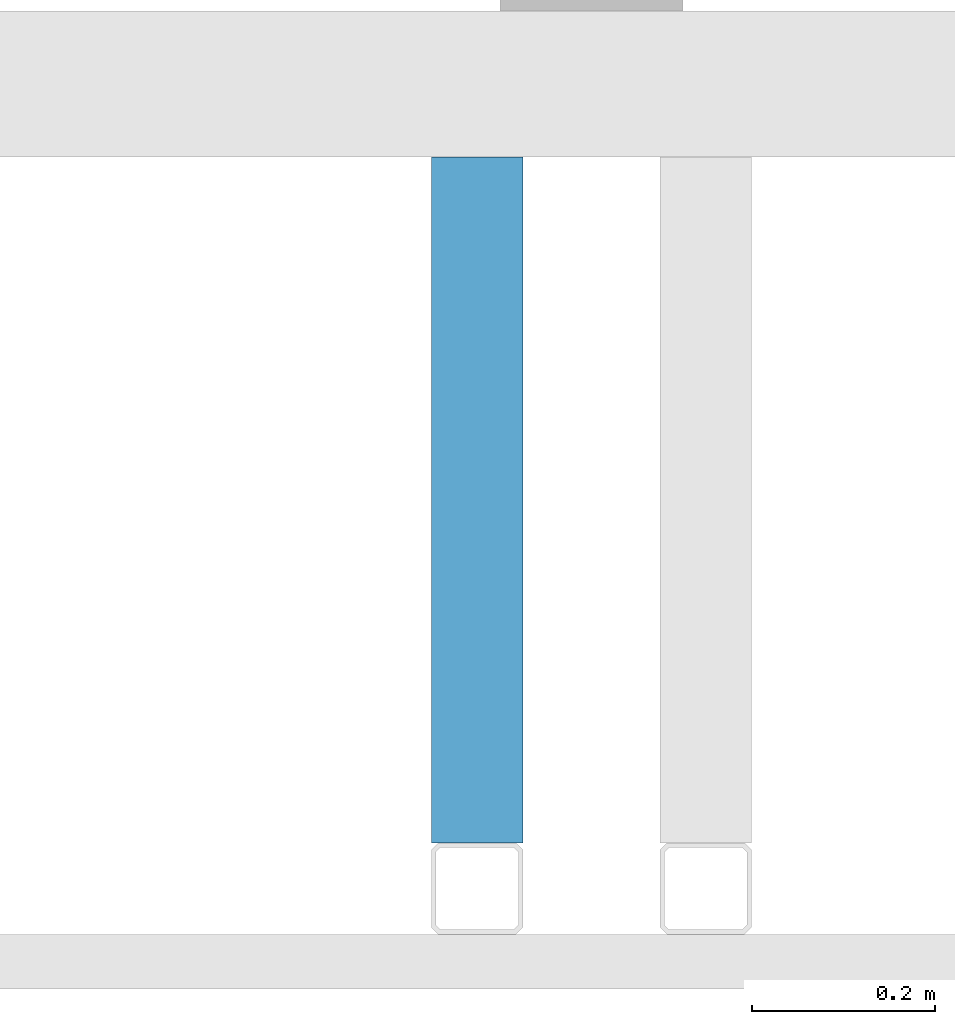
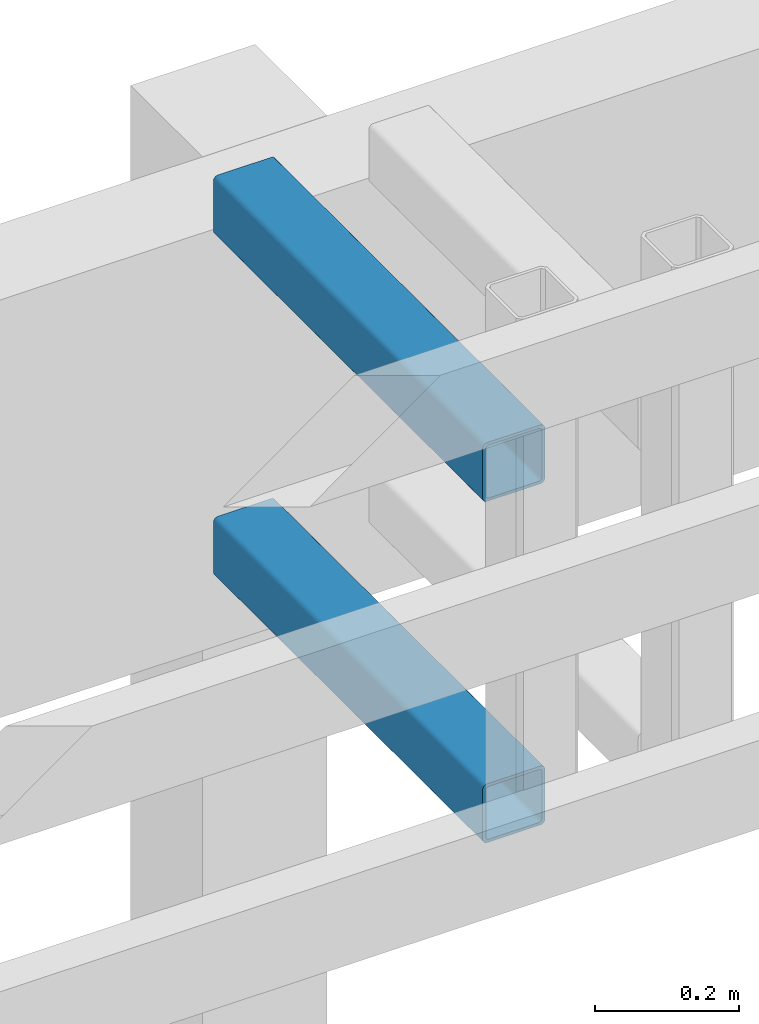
# One storey, part 26 of 42: 2 members.
"""IFC4 building model written with IfcOpenShell, lengths in metres."""

from ifc_helpers import new_model, entity, si_unit, converted_unit, derived_unit, frame, origin, place, context, subcontext, project, spatial, faceted_brep, material, element, save


model = new_model("IFC4")

# Units and contexts
model_context = context("Model", 3, precision=1e-05, world=origin())
plan_context = context("Plan", 2, precision=1e-05, world=origin())
body_context = subcontext(model_context, "Body", "Model", "MODEL_VIEW")
ifc_project = project(units=[si_unit("LENGTHUNIT", "METRE"), si_unit("AREAUNIT", "SQUARE_METRE"), si_unit("VOLUMEUNIT", "CUBIC_METRE"), si_unit("MASSUNIT", "GRAM", prefix="KILO"), converted_unit("PLANEANGLEUNIT", "DEGREE", entity("IfcPlaneAngleMeasure", 0.0174532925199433), si_unit("PLANEANGLEUNIT", "RADIAN"), dimensions=[0, 0, 0, 0, 0, 0, 0]), derived_unit("THERMALTRANSMITTANCEUNIT", [(si_unit("POWERUNIT", "WATT"), 1), (si_unit("THERMODYNAMICTEMPERATUREUNIT", "KELVIN"), -1), (si_unit("LENGTHUNIT", "METRE"), -2)]), derived_unit("VOLUMETRICFLOWRATEUNIT", [(si_unit("LENGTHUNIT", "METRE"), 3), (converted_unit("TIMEUNIT", "hour", entity("IfcTimeMeasure", 3600.0), si_unit("TIMEUNIT", "SECOND"), dimensions=[0, 0, 1, 0, 0, 0, 0]), -1), (si_unit("LENGTHUNIT", "METRE"), -1)])], contexts=[model_context, plan_context])

# Site, building, storey
site_placement = place(None, origin())
site = spatial("IfcSite", under=ifc_project, at=site_placement, Name="Site", CompositionType="ELEMENT")
building_placement = place(site_placement, origin())
building = spatial("IfcBuilding", under=site, at=building_placement, Name="Admin", CompositionType="ELEMENT")
storey_placement = place(building_placement, frame((0.0, 0.0, 6.61)))
storey = spatial("IfcBuildingStorey", under=building, at=storey_placement, Name="02-Etage2", CompositionType="ELEMENT", Elevation=6.61)

# Members
ifc_material_1 = material(Name="S235")
member_1_placement = place(storey_placement, frame((52.3748010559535, 11.1194493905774, 2.28)))
element("IfcMember", 1, at=member_1_placement, inside=storey, material=ifc_material_1, Name="Bandeau R+2", context=body_context, shape_type="Brep", body=[
    faceted_brep([(0.0950000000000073, 0.0, 0.09), (0.0950000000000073, 0.0, 0.01), (0.0950000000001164, 0.749999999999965, 0.01), (0.0950000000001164, 0.749999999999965, 0.09), (0.0949240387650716, 0.0, 0.0908682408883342), (0.0949240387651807, 0.749999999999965, 0.0908682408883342), (0.0946984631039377, 0.0, 0.0917101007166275), (0.0946984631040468, 0.749999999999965, 0.0917101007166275), (0.0943301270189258, 0.0, 0.0925), (0.094330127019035, 0.749999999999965, 0.0925), (0.0938302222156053, 0.0, 0.0932139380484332), (0.0938302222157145, 0.749999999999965, 0.0932139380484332), (0.0932139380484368, 1.81898940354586e-15, 0.0938302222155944), (0.093213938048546, 0.749999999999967, 0.0938302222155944), (0.0925000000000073, 1.81898940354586e-15, 0.0943301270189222), (0.0925000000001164, 0.749999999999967, 0.0943301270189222), (0.0917101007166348, 1.81898940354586e-15, 0.0946984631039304), (0.0917101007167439, 0.749999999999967, 0.0946984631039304), (0.0908682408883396, 1.81898940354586e-15, 0.0949240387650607), (0.0908682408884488, 0.749999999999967, 0.0949240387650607), (0.0900000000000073, 1.81898940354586e-15, 0.095), (0.0900000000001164, 0.749999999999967, 0.095), (0.0100000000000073, 1.2732925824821e-14, 0.095), (0.0100000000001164, 0.749999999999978, 0.095), (0.00913175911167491, 1.2732925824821e-14, 0.0949240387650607), (0.00913175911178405, 0.749999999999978, 0.0949240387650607), (0.00828989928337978, 1.2732925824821e-14, 0.0946984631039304), (0.00828989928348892, 0.749999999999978, 0.0946984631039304), (0.00750000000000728, 1.2732925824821e-14, 0.0943301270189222), (0.00750000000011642, 0.749999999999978, 0.0943301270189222), (0.00678606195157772, 1.2732925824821e-14, 0.0938302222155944), (0.00678606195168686, 0.749999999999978, 0.0938302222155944), (0.00616977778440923, 1.45519152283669e-14, 0.0932139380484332), (0.00616977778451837, 0.74999999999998, 0.0932139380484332), (0.0056698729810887, 1.45519152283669e-14, 0.0925), (0.00566987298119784, 0.74999999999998, 0.0925), (0.00530153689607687, 1.45519152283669e-14, 0.0917101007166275), (0.00530153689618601, 0.74999999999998, 0.0917101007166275), (0.00507596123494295, 1.45519152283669e-14, 0.0908682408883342), (0.00507596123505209, 0.74999999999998, 0.0908682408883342), (0.00500000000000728, 1.45519152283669e-14, 0.09), (0.00500000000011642, 0.74999999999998, 0.09), (0.00500000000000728, 1.45519152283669e-14, 0.01), (0.00500000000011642, 0.74999999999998, 0.01), (0.00507596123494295, 1.45519152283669e-14, 0.00913175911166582), (0.00507596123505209, 0.74999999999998, 0.00913175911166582), (0.00530153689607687, 1.45519152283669e-14, 0.00828989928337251), (0.00530153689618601, 0.74999999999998, 0.00828989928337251), (0.0056698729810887, 1.45519152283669e-14, 0.0075), (0.00566987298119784, 0.74999999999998, 0.0075), (0.00616977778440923, 1.45519152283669e-14, 0.00678606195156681), (0.00616977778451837, 0.74999999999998, 0.00678606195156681), (0.00678606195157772, 1.2732925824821e-14, 0.0061697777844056), (0.00678606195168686, 0.749999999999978, 0.0061697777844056), (0.00750000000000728, 1.2732925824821e-14, 0.00566987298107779), (0.00750000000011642, 0.749999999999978, 0.00566987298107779), (0.00828989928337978, 1.2732925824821e-14, 0.00530153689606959), (0.00828989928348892, 0.749999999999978, 0.00530153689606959), (0.00913175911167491, 1.2732925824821e-14, 0.00507596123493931), (0.00913175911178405, 0.749999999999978, 0.00507596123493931), (0.0100000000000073, 1.2732925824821e-14, 0.005), (0.0100000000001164, 0.749999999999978, 0.005), (0.0900000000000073, 1.81898940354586e-15, 0.005), (0.0900000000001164, 0.749999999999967, 0.005), (0.0908682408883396, 1.81898940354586e-15, 0.00507596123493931), (0.0908682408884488, 0.749999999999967, 0.00507596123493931), (0.0917101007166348, 1.81898940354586e-15, 0.00530153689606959), (0.0917101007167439, 0.749999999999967, 0.00530153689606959), (0.0925000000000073, 1.81898940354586e-15, 0.00566987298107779), (0.0925000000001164, 0.749999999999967, 0.00566987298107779), (0.0932139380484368, 1.81898940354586e-15, 0.0061697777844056), (0.093213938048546, 0.749999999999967, 0.0061697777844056), (0.0938302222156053, 0.0, 0.00678606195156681), (0.0938302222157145, 0.749999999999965, 0.00678606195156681), (0.0943301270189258, 0.0, 0.0075), (0.094330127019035, 0.749999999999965, 0.0075), (0.0946984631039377, 0.0, 0.00828989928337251), (0.0946984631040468, 0.749999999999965, 0.00828989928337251), (0.0949240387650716, 0.0, 0.00913175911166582), (0.0949240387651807, 0.749999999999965, 0.00913175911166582), (0.00750000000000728, 1.2732925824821e-14, 0.1), (0.00619763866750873, 1.45519152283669e-14, 0.099886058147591), (0.00619763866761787, 0.74999999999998, 0.099886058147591), (0.00750000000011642, 0.749999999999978, 0.1), (0.0925000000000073, 1.81898940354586e-15, 0.1), (0.0925000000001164, 0.749999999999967, 0.1), (0.0938023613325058, 0.0, 0.099886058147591), (0.093802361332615, 0.749999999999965, 0.099886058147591), (0.0950651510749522, 0.0, 0.0995476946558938), (0.0950651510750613, 0.749999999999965, 0.0995476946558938), (0.0962500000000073, 0.0, 0.0989951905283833), (0.0962500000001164, 0.749999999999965, 0.0989951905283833), (0.0973209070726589, 0.0, 0.0982453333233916), (0.097320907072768, 0.749999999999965, 0.0982453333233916), (0.0982453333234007, 0.0, 0.0973209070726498), (0.0982453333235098, 0.749999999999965, 0.0973209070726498), (0.0989951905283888, 0.0, 0.09625), (0.0989951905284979, 0.749999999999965, 0.09625), (0.0995476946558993, 0.0, 0.0950651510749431), (0.0995476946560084, 0.749999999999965, 0.0950651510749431), (0.0998860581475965, 0.0, 0.0938023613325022), (0.0998860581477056, 0.749999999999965, 0.0938023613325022), (0.100000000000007, 0.0, 0.0925), (0.100000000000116, 0.749999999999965, 0.0925), (0.0998860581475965, 0.0, 0.00619763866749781), (0.100000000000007, 0.0, 0.0075), (0.100000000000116, 0.749999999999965, 0.0075), (0.0998860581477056, 0.749999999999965, 0.00619763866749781), (0.0995476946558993, 0.0, 0.00493484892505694), (0.0995476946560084, 0.749999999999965, 0.00493484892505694), (0.0989951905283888, 0.0, 0.00375), (0.0989951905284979, 0.749999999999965, 0.00375), (0.0982453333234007, 0.0, 0.00267909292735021), (0.0982453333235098, 0.749999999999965, 0.00267909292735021), (0.0973209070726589, 0.0, 0.00175466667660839), (0.097320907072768, 0.749999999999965, 0.00175466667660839), (0.0962500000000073, 0.0, 0.00100480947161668), (0.0962500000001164, 0.749999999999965, 0.00100480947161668), (0.0950651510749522, 0.0, 0.000452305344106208), (0.0950651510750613, 0.749999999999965, 0.000452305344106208), (0.0938023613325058, 0.0, 0.000113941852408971), (0.093802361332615, 0.749999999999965, 0.000113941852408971), (0.0925000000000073, 1.81898940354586e-15, 0.0), (0.0925000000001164, 0.749999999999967, 0.0), (0.00750000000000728, 1.2732925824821e-14, 0.0), (0.00750000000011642, 0.749999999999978, 0.0), (0.00619763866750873, 1.45519152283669e-14, 0.000113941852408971), (0.00619763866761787, 0.74999999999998, 0.000113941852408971), (0.0049348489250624, 1.45519152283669e-14, 0.000452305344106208), (0.00493484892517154, 0.74999999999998, 0.000452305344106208), (0.00375000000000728, 1.45519152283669e-14, 0.00100480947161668), (0.00375000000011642, 0.74999999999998, 0.00100480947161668), (0.00267909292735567, 1.45519152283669e-14, 0.00175466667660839), (0.00267909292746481, 0.74999999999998, 0.00175466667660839), (0.00175466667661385, 1.45519152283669e-14, 0.00267909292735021), (0.00175466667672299, 0.74999999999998, 0.00267909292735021), (0.00100480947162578, 1.45519152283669e-14, 0.00375), (0.00100480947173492, 0.74999999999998, 0.00375), (0.000452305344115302, 1.45519152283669e-14, 0.00493484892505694), (0.000452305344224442, 0.74999999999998, 0.00493484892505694), (0.000113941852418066, 1.45519152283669e-14, 0.00619763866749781), (0.000113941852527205, 0.74999999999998, 0.00619763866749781), (7.27595761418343e-15, 0.0, 0.0075), (1.16415321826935e-13, 0.74999999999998, 0.0075), (0.000113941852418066, 1.45519152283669e-14, 0.0938023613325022), (0.0, 0.0, 0.0925), (1.16415321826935e-13, 0.74999999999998, 0.0925), (0.000113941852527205, 0.74999999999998, 0.0938023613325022), (0.000452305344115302, 1.45519152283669e-14, 0.0950651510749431), (0.000452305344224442, 0.74999999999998, 0.0950651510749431), (0.00100480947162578, 1.45519152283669e-14, 0.09625), (0.00100480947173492, 0.74999999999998, 0.09625), (0.00175466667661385, 1.45519152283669e-14, 0.0973209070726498), (0.00175466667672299, 0.74999999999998, 0.0973209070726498), (0.00267909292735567, 1.45519152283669e-14, 0.0982453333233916), (0.00267909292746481, 0.74999999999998, 0.0982453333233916), (0.00375000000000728, 1.45519152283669e-14, 0.0989951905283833), (0.00375000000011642, 0.74999999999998, 0.0989951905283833), (0.0049348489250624, 1.45519152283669e-14, 0.0995476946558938), (0.00493484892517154, 0.74999999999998, 0.0995476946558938)], [[[0, 1, 2, 3]], [[4, 0, 3, 5]], [[6, 4, 5, 7]], [[8, 6, 7, 9]], [[10, 8, 9, 11]], [[12, 10, 11, 13]], [[14, 12, 13, 15]], [[16, 14, 15, 17]], [[18, 16, 17, 19]], [[20, 18, 19, 21]], [[22, 20, 21, 23]], [[24, 22, 23, 25]], [[26, 24, 25, 27]], [[28, 26, 27, 29]], [[30, 28, 29, 31]], [[32, 30, 31, 33]], [[34, 32, 33, 35]], [[36, 34, 35, 37]], [[38, 36, 37, 39]], [[40, 38, 39, 41]], [[42, 40, 41, 43]], [[44, 42, 43, 45]], [[46, 44, 45, 47]], [[48, 46, 47, 49]], [[50, 48, 49, 51]], [[52, 50, 51, 53]], [[54, 52, 53, 55]], [[56, 54, 55, 57]], [[58, 56, 57, 59]], [[60, 58, 59, 61]], [[62, 60, 61, 63]], [[64, 62, 63, 65]], [[66, 64, 65, 67]], [[68, 66, 67, 69]], [[70, 68, 69, 71]], [[72, 70, 71, 73]], [[74, 72, 73, 75]], [[76, 74, 75, 77]], [[78, 76, 77, 79]], [[1, 78, 79, 2]], [[80, 81, 82, 83]], [[84, 80, 83, 85]], [[86, 84, 85, 87]], [[88, 86, 87, 89]], [[90, 88, 89, 91]], [[92, 90, 91, 93]], [[94, 92, 93, 95]], [[96, 94, 95, 97]], [[98, 96, 97, 99]], [[100, 98, 99, 101]], [[102, 100, 101, 103]], [[104, 105, 106, 107]], [[108, 104, 107, 109]], [[110, 108, 109, 111]], [[112, 110, 111, 113]], [[114, 112, 113, 115]], [[116, 114, 115, 117]], [[118, 116, 117, 119]], [[120, 118, 119, 121]], [[122, 120, 121, 123]], [[124, 122, 123, 125]], [[126, 124, 125, 127]], [[128, 126, 127, 129]], [[130, 128, 129, 131]], [[132, 130, 131, 133]], [[134, 132, 133, 135]], [[136, 134, 135, 137]], [[138, 136, 137, 139]], [[140, 138, 139, 141]], [[142, 140, 141, 143]], [[144, 145, 146, 147]], [[148, 144, 147, 149]], [[150, 148, 149, 151]], [[152, 150, 151, 153]], [[154, 152, 153, 155]], [[156, 154, 155, 157]], [[158, 156, 157, 159]], [[81, 158, 159, 82]], [[146, 143, 141, 139, 137, 135, 133, 131, 129, 127, 125, 123, 121, 119, 117, 115, 113, 111, 109, 107, 106, 103, 101, 99, 97, 95, 93, 91, 89, 87, 85, 83, 82, 159, 157, 155, 153, 151, 149, 147], [2, 79, 77, 75, 73, 71, 69, 67, 65, 63, 61, 59, 57, 55, 53, 51, 49, 47, 45, 43, 41, 39, 37, 35, 33, 31, 29, 27, 25, 23, 21, 19, 17, 15, 13, 11, 9, 7, 5, 3]], [[103, 106, 105, 102]], [[102, 105, 104, 108, 110, 112, 114, 116, 118, 120, 122, 124, 126, 128, 130, 132, 134, 136, 138, 140, 142, 145, 144, 148, 150, 152, 154, 156, 158, 81, 80, 84, 86, 88, 90, 92, 94, 96, 98, 100], [1, 0, 4, 6, 8, 10, 12, 14, 16, 18, 20, 22, 24, 26, 28, 30, 32, 34, 36, 38, 40, 42, 44, 46, 48, 50, 52, 54, 56, 58, 60, 62, 64, 66, 68, 70, 72, 74, 76, 78]], [[145, 142, 143, 146]]], orient=[[False], [False], [False], [False], [False], [False], [False], [False], [False], [False], [False], [False], [False], [False], [False], [False], [False], [False], [False], [False], [False], [False], [False], [False], [False], [False], [False], [False], [False], [False], [False], [False], [False], [False], [False], [False], [False], [False], [False], [False], [False], [False], [False], [False], [False], [False], [False], [False], [False], [False], [False], [False], [False], [False], [False], [False], [False], [False], [False], [False], [False], [False], [False], [False], [False], [False], [False], [False], [False], [False], [False], [False], [False], [False], [False], [False], [False], [False], [False, False], [False], [False, False], [False]]),
])
ifc_material_2 = material(Name="S235")
member_2_placement = place(storey_placement, frame((52.3748010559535, 11.1194493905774, 2.86)))
element("IfcMember", 2, at=member_2_placement, inside=storey, material=ifc_material_2, Name="Bandeau R+2", context=body_context, shape_type="Brep", body=[
    faceted_brep([(0.0950000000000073, 0.0, 0.09), (0.0950000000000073, 0.0, 0.01), (0.0950000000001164, 0.74999999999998, 0.01), (0.0950000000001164, 0.74999999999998, 0.09), (0.0949240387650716, 0.0, 0.0908682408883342), (0.0949240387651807, 0.74999999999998, 0.0908682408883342), (0.0946984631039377, 0.0, 0.0917101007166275), (0.0946984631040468, 0.74999999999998, 0.0917101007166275), (0.0943301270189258, 0.0, 0.0925), (0.094330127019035, 0.74999999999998, 0.0925), (0.0938302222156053, 0.0, 0.0932139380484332), (0.0938302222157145, 0.74999999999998, 0.0932139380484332), (0.0932139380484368, 1.81898940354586e-15, 0.0938302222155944), (0.093213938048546, 0.749999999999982, 0.0938302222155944), (0.0925000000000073, 1.81898940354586e-15, 0.0943301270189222), (0.0925000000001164, 0.749999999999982, 0.0943301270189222), (0.0917101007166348, 1.81898940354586e-15, 0.0946984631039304), (0.0917101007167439, 0.749999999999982, 0.0946984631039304), (0.0908682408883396, 1.81898940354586e-15, 0.0949240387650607), (0.0908682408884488, 0.749999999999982, 0.0949240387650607), (0.0900000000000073, 1.81898940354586e-15, 0.095), (0.0900000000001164, 0.749999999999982, 0.095), (0.0100000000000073, 1.2732925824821e-14, 0.095), (0.0100000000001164, 0.749999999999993, 0.095), (0.00913175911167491, 1.2732925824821e-14, 0.0949240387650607), (0.00913175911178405, 0.749999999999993, 0.0949240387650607), (0.00828989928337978, 1.2732925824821e-14, 0.0946984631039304), (0.00828989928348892, 0.749999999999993, 0.0946984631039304), (0.00750000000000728, 1.2732925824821e-14, 0.0943301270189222), (0.00750000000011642, 0.749999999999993, 0.0943301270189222), (0.00678606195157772, 1.2732925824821e-14, 0.0938302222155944), (0.00678606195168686, 0.749999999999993, 0.0938302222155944), (0.00616977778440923, 1.45519152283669e-14, 0.0932139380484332), (0.00616977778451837, 0.749999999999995, 0.0932139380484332), (0.0056698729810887, 1.45519152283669e-14, 0.0925), (0.00566987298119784, 0.749999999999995, 0.0925), (0.00530153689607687, 1.45519152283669e-14, 0.0917101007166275), (0.00530153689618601, 0.749999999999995, 0.0917101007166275), (0.00507596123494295, 1.45519152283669e-14, 0.0908682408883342), (0.00507596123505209, 0.749999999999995, 0.0908682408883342), (0.00500000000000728, 1.45519152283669e-14, 0.09), (0.00500000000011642, 0.749999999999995, 0.09), (0.00500000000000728, 1.45519152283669e-14, 0.01), (0.00500000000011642, 0.749999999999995, 0.01), (0.00507596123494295, 1.45519152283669e-14, 0.00913175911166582), (0.00507596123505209, 0.749999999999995, 0.00913175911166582), (0.00530153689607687, 1.45519152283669e-14, 0.00828989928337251), (0.00530153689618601, 0.749999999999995, 0.00828989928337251), (0.0056698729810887, 1.45519152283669e-14, 0.0075), (0.00566987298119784, 0.749999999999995, 0.0075), (0.00616977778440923, 1.45519152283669e-14, 0.00678606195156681), (0.00616977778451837, 0.749999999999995, 0.00678606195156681), (0.00678606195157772, 1.2732925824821e-14, 0.0061697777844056), (0.00678606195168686, 0.749999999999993, 0.0061697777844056), (0.00750000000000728, 1.2732925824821e-14, 0.00566987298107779), (0.00750000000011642, 0.749999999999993, 0.00566987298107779), (0.00828989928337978, 1.2732925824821e-14, 0.00530153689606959), (0.00828989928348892, 0.749999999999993, 0.00530153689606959), (0.00913175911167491, 1.2732925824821e-14, 0.00507596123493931), (0.00913175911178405, 0.749999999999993, 0.00507596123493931), (0.0100000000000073, 1.2732925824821e-14, 0.005), (0.0100000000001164, 0.749999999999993, 0.005), (0.0900000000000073, 1.81898940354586e-15, 0.005), (0.0900000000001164, 0.749999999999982, 0.005), (0.0908682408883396, 1.81898940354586e-15, 0.00507596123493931), (0.0908682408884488, 0.749999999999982, 0.00507596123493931), (0.0917101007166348, 1.81898940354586e-15, 0.00530153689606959), (0.0917101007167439, 0.749999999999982, 0.00530153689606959), (0.0925000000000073, 1.81898940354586e-15, 0.00566987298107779), (0.0925000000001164, 0.749999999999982, 0.00566987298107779), (0.0932139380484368, 1.81898940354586e-15, 0.0061697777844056), (0.093213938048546, 0.749999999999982, 0.0061697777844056), (0.0938302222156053, 0.0, 0.00678606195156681), (0.0938302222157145, 0.74999999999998, 0.00678606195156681), (0.0943301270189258, 0.0, 0.0075), (0.094330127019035, 0.74999999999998, 0.0075), (0.0946984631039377, 0.0, 0.00828989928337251), (0.0946984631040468, 0.74999999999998, 0.00828989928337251), (0.0949240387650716, 0.0, 0.00913175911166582), (0.0949240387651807, 0.74999999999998, 0.00913175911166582), (0.00750000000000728, 1.2732925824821e-14, 0.1), (0.00619763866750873, 1.45519152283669e-14, 0.099886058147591), (0.00619763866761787, 0.749999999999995, 0.099886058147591), (0.00750000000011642, 0.749999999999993, 0.1), (0.0925000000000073, 1.81898940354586e-15, 0.1), (0.0925000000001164, 0.749999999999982, 0.1), (0.0938023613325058, 0.0, 0.099886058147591), (0.093802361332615, 0.74999999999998, 0.099886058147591), (0.0950651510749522, 0.0, 0.0995476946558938), (0.0950651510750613, 0.74999999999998, 0.0995476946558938), (0.0962500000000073, 0.0, 0.0989951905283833), (0.0962500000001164, 0.74999999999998, 0.0989951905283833), (0.0973209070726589, 0.0, 0.0982453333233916), (0.097320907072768, 0.74999999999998, 0.0982453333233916), (0.0982453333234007, 0.0, 0.0973209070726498), (0.0982453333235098, 0.74999999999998, 0.0973209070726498), (0.0989951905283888, 0.0, 0.09625), (0.0989951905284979, 0.74999999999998, 0.09625), (0.0995476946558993, 0.0, 0.0950651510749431), (0.0995476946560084, 0.74999999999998, 0.0950651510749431), (0.0998860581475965, 0.0, 0.0938023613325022), (0.0998860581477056, 0.74999999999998, 0.0938023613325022), (0.100000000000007, 0.0, 0.0925), (0.100000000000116, 0.74999999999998, 0.0925), (0.0998860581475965, 0.0, 0.00619763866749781), (0.100000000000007, 0.0, 0.0075), (0.100000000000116, 0.74999999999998, 0.0075), (0.0998860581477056, 0.74999999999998, 0.00619763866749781), (0.0995476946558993, 0.0, 0.00493484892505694), (0.0995476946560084, 0.74999999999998, 0.00493484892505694), (0.0989951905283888, 0.0, 0.00375), (0.0989951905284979, 0.74999999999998, 0.00375), (0.0982453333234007, 0.0, 0.00267909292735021), (0.0982453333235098, 0.74999999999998, 0.00267909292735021), (0.0973209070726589, 0.0, 0.00175466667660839), (0.097320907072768, 0.74999999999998, 0.00175466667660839), (0.0962500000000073, 0.0, 0.00100480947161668), (0.0962500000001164, 0.74999999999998, 0.00100480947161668), (0.0950651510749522, 0.0, 0.000452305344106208), (0.0950651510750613, 0.74999999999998, 0.000452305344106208), (0.0938023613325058, 0.0, 0.000113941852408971), (0.093802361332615, 0.74999999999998, 0.000113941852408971), (0.0925000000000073, 1.81898940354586e-15, 0.0), (0.0925000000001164, 0.749999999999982, 0.0), (0.00750000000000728, 1.2732925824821e-14, 0.0), (0.00750000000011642, 0.749999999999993, 0.0), (0.00619763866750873, 1.45519152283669e-14, 0.000113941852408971), (0.00619763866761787, 0.749999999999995, 0.000113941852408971), (0.0049348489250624, 1.45519152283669e-14, 0.000452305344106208), (0.00493484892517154, 0.749999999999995, 0.000452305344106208), (0.00375000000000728, 1.45519152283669e-14, 0.00100480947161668), (0.00375000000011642, 0.749999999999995, 0.00100480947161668), (0.00267909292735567, 1.45519152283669e-14, 0.00175466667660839), (0.00267909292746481, 0.749999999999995, 0.00175466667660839), (0.00175466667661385, 1.45519152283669e-14, 0.00267909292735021), (0.00175466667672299, 0.749999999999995, 0.00267909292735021), (0.00100480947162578, 1.45519152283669e-14, 0.00375), (0.00100480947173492, 0.749999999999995, 0.00375), (0.000452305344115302, 1.45519152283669e-14, 0.00493484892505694), (0.000452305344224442, 0.749999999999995, 0.00493484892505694), (0.000113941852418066, 1.45519152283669e-14, 0.00619763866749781), (0.000113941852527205, 0.749999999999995, 0.00619763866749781), (7.27595761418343e-15, 0.0, 0.0075), (1.16415321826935e-13, 0.749999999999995, 0.0075), (0.000113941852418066, 1.45519152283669e-14, 0.0938023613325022), (0.0, 0.0, 0.0925), (1.16415321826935e-13, 0.749999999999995, 0.0925), (0.000113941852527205, 0.749999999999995, 0.0938023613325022), (0.000452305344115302, 1.45519152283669e-14, 0.0950651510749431), (0.000452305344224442, 0.749999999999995, 0.0950651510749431), (0.00100480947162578, 1.45519152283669e-14, 0.09625), (0.00100480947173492, 0.749999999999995, 0.09625), (0.00175466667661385, 1.45519152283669e-14, 0.0973209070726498), (0.00175466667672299, 0.749999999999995, 0.0973209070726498), (0.00267909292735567, 1.45519152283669e-14, 0.0982453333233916), (0.00267909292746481, 0.749999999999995, 0.0982453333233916), (0.00375000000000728, 1.45519152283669e-14, 0.0989951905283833), (0.00375000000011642, 0.749999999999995, 0.0989951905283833), (0.0049348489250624, 1.45519152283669e-14, 0.0995476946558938), (0.00493484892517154, 0.749999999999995, 0.0995476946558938)], [[[0, 1, 2, 3]], [[4, 0, 3, 5]], [[6, 4, 5, 7]], [[8, 6, 7, 9]], [[10, 8, 9, 11]], [[12, 10, 11, 13]], [[14, 12, 13, 15]], [[16, 14, 15, 17]], [[18, 16, 17, 19]], [[20, 18, 19, 21]], [[22, 20, 21, 23]], [[24, 22, 23, 25]], [[26, 24, 25, 27]], [[28, 26, 27, 29]], [[30, 28, 29, 31]], [[32, 30, 31, 33]], [[34, 32, 33, 35]], [[36, 34, 35, 37]], [[38, 36, 37, 39]], [[40, 38, 39, 41]], [[42, 40, 41, 43]], [[44, 42, 43, 45]], [[46, 44, 45, 47]], [[48, 46, 47, 49]], [[50, 48, 49, 51]], [[52, 50, 51, 53]], [[54, 52, 53, 55]], [[56, 54, 55, 57]], [[58, 56, 57, 59]], [[60, 58, 59, 61]], [[62, 60, 61, 63]], [[64, 62, 63, 65]], [[66, 64, 65, 67]], [[68, 66, 67, 69]], [[70, 68, 69, 71]], [[72, 70, 71, 73]], [[74, 72, 73, 75]], [[76, 74, 75, 77]], [[78, 76, 77, 79]], [[1, 78, 79, 2]], [[80, 81, 82, 83]], [[84, 80, 83, 85]], [[86, 84, 85, 87]], [[88, 86, 87, 89]], [[90, 88, 89, 91]], [[92, 90, 91, 93]], [[94, 92, 93, 95]], [[96, 94, 95, 97]], [[98, 96, 97, 99]], [[100, 98, 99, 101]], [[102, 100, 101, 103]], [[104, 105, 106, 107]], [[108, 104, 107, 109]], [[110, 108, 109, 111]], [[112, 110, 111, 113]], [[114, 112, 113, 115]], [[116, 114, 115, 117]], [[118, 116, 117, 119]], [[120, 118, 119, 121]], [[122, 120, 121, 123]], [[124, 122, 123, 125]], [[126, 124, 125, 127]], [[128, 126, 127, 129]], [[130, 128, 129, 131]], [[132, 130, 131, 133]], [[134, 132, 133, 135]], [[136, 134, 135, 137]], [[138, 136, 137, 139]], [[140, 138, 139, 141]], [[142, 140, 141, 143]], [[144, 145, 146, 147]], [[148, 144, 147, 149]], [[150, 148, 149, 151]], [[152, 150, 151, 153]], [[154, 152, 153, 155]], [[156, 154, 155, 157]], [[158, 156, 157, 159]], [[81, 158, 159, 82]], [[146, 143, 141, 139, 137, 135, 133, 131, 129, 127, 125, 123, 121, 119, 117, 115, 113, 111, 109, 107, 106, 103, 101, 99, 97, 95, 93, 91, 89, 87, 85, 83, 82, 159, 157, 155, 153, 151, 149, 147], [2, 79, 77, 75, 73, 71, 69, 67, 65, 63, 61, 59, 57, 55, 53, 51, 49, 47, 45, 43, 41, 39, 37, 35, 33, 31, 29, 27, 25, 23, 21, 19, 17, 15, 13, 11, 9, 7, 5, 3]], [[103, 106, 105, 102]], [[102, 105, 104, 108, 110, 112, 114, 116, 118, 120, 122, 124, 126, 128, 130, 132, 134, 136, 138, 140, 142, 145, 144, 148, 150, 152, 154, 156, 158, 81, 80, 84, 86, 88, 90, 92, 94, 96, 98, 100], [1, 0, 4, 6, 8, 10, 12, 14, 16, 18, 20, 22, 24, 26, 28, 30, 32, 34, 36, 38, 40, 42, 44, 46, 48, 50, 52, 54, 56, 58, 60, 62, 64, 66, 68, 70, 72, 74, 76, 78]], [[145, 142, 143, 146]]], orient=[[False], [False], [False], [False], [False], [False], [False], [False], [False], [False], [False], [False], [False], [False], [False], [False], [False], [False], [False], [False], [False], [False], [False], [False], [False], [False], [False], [False], [False], [False], [False], [False], [False], [False], [False], [False], [False], [False], [False], [False], [False], [False], [False], [False], [False], [False], [False], [False], [False], [False], [False], [False], [False], [False], [False], [False], [False], [False], [False], [False], [False], [False], [False], [False], [False], [False], [False], [False], [False], [False], [False], [False], [False], [False], [False], [False], [False], [False], [False, False], [False], [False, False], [False]]),
])

save(model, "model.ifc")
